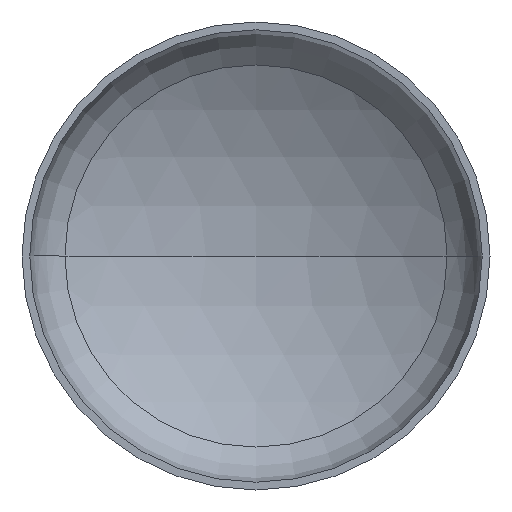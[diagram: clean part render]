
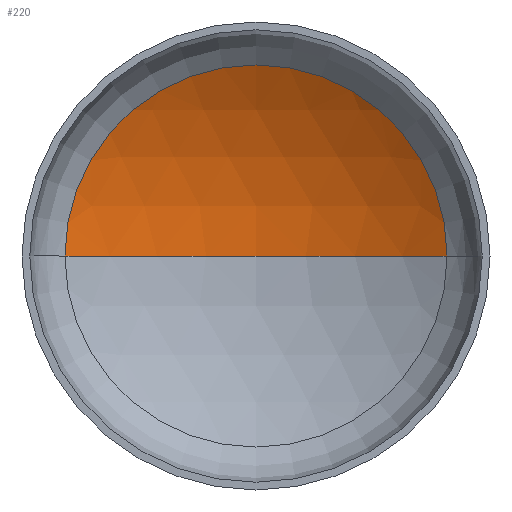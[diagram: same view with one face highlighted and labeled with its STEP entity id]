
A CAD part, front view. The second image highlights one B-rep face of the part: STEP entity #220.
In plain terms, the highlighted spherical face has radius 480 mm.
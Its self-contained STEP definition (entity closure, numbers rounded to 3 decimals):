
#6 = VERTEX_POINT ( 'NONE', #282 ) ;
#21 = EDGE_LOOP ( 'NONE', ( #97, #75, #163 ) ) ;
#27 = AXIS2_PLACEMENT_3D ( 'NONE', #289, #235, #195 ) ;
#46 = AXIS2_PLACEMENT_3D ( 'NONE', #216, #186, #359 ) ;
#50 = AXIS2_PLACEMENT_3D ( 'NONE', #231, #226, #227 ) ;
#51 = AXIS2_PLACEMENT_3D ( 'NONE', #310, #307, #240 ) ;
#75 = ORIENTED_EDGE ( 'NONE', *, *, #99, .T. ) ;
#92 = EDGE_CURVE ( 'NONE', #179, #128, #406, .T. ) ;
#97 = ORIENTED_EDGE ( 'NONE', *, *, #100, .F. ) ;
#99 = EDGE_CURVE ( 'NONE', #6, #179, #350, .T. ) ;
#100 = EDGE_CURVE ( 'NONE', #6, #128, #285, .T. ) ;
#104 = FACE_OUTER_BOUND ( 'NONE', #21, .T. ) ;
#128 = VERTEX_POINT ( 'NONE', #202 ) ;
#163 = ORIENTED_EDGE ( 'NONE', *, *, #92, .T. ) ;
#179 = VERTEX_POINT ( 'NONE', #293 ) ;
#186 = DIRECTION ( 'NONE',  ( 0., 0., 1. ) ) ;
#195 = DIRECTION ( 'NONE',  ( -1., 0., 0. ) ) ;
#202 = CARTESIAN_POINT ( 'NONE',  ( -244.948, 109.119, 0. ) ) ;
#216 = CARTESIAN_POINT ( 'NONE',  ( 0., -303.676, 0. ) ) ;
#220 = ADVANCED_FACE ( 'NONE', ( #104 ), #280, .F. ) ;
#226 = DIRECTION ( 'NONE',  ( 0., 0., -1. ) ) ;
#227 = DIRECTION ( 'NONE',  ( -1., 0., 0. ) ) ;
#231 = CARTESIAN_POINT ( 'NONE',  ( 0., -303.676, 0. ) ) ;
#235 = DIRECTION ( 'NONE',  ( 0., 0., -1. ) ) ;
#240 = DIRECTION ( 'NONE',  ( 1., 0., 0. ) ) ;
#280 = SPHERICAL_SURFACE ( 'NONE', #27, 480. ) ;
#282 = CARTESIAN_POINT ( 'NONE',  ( 0., 176.324, 0. ) ) ;
#285 = CIRCLE ( 'NONE', #46, 480. ) ;
#289 = CARTESIAN_POINT ( 'NONE',  ( 0., -303.676, 0. ) ) ;
#293 = CARTESIAN_POINT ( 'NONE',  ( 244.948, 109.119, 0. ) ) ;
#307 = DIRECTION ( 'NONE',  ( 0., -1., 0. ) ) ;
#310 = CARTESIAN_POINT ( 'NONE',  ( 0., 109.119, 0. ) ) ;
#350 = CIRCLE ( 'NONE', #50, 480. ) ;
#359 = DIRECTION ( 'NONE',  ( 1., 0., 0. ) ) ;
#406 = CIRCLE ( 'NONE', #51, 244.948 ) ;
